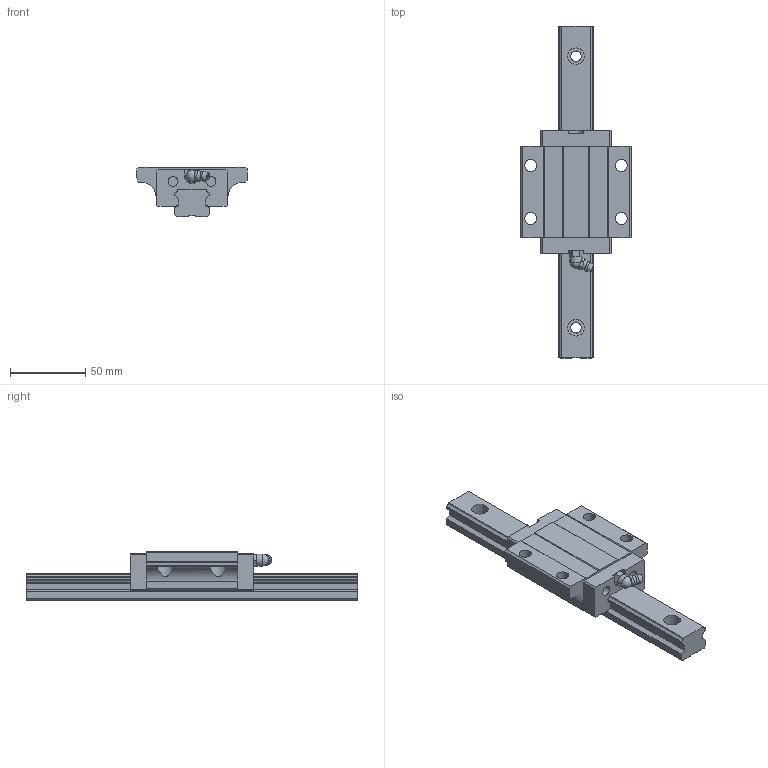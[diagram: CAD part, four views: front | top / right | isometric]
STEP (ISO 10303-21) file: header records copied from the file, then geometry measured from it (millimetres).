
FILE_DESCRIPTION(/* description */ (''),/* implementation_level */ '2;1');
FILE_NAME(/* name */ 'MSB25E',/* time_stamp */ '2004-05-24T09:41:50+08:00',/* author */ (''),/* organization */ (''),/* preprocessor_version */ 'ST-DEVELOPER v8',/* originating_system */ '',/* authorisation */ '');
FILE_SCHEMA (('CONFIG_CONTROL_DESIGN'));
Length unit declared in the file: millimetre
Products named in the file (1): zirc812C000q
Bounding box: 73 x 220 x 33 mm (x, y, z)
Volume: 170382.8 mm3; surface area: 42603 mm2
Topology: 3 solids, 3 shells, 187 faces, 513 edges, 338 vertices
Faces by surface type: plane 141, cylinder 35, torus 7, sphere 2, cone 1, bspline 1
Full cylindrical faces by diameter (mm): 6.5 x6, 7 x4, 8 x5, 11 x4
Entity records: 6015 total; most frequent: CARTESIAN_POINT 1216, ORIENTED_EDGE 966, DIRECTION 954, EDGE_CURVE 483, LINE 342, VECTOR 342, VERTEX_POINT 332, AXIS2_PLACEMENT_3D 306
